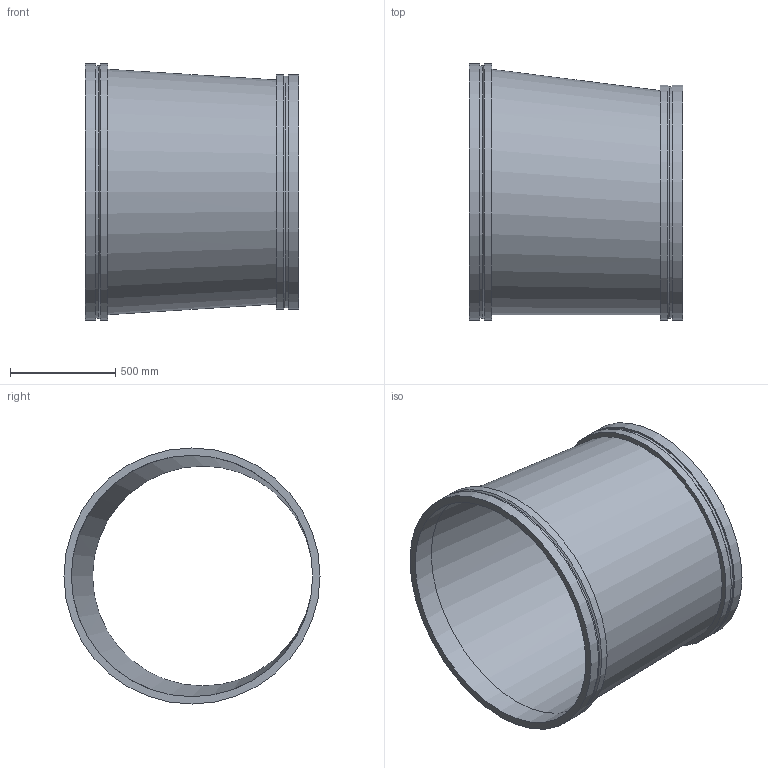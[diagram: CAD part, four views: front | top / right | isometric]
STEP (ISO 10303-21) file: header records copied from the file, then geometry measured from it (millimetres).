
FILE_DESCRIPTION(/* description */ ('VIC REDUCER ECCENTRIC No W51-VR','CAx-IF Rec.Pracs.---Representation and Presentation of Product Manufacturing Information (PMI)---4.0---2014-10-13'),/* implementation_level */ '2;1');
FILE_NAME(/* name */ 'C:\Users\kkamble\AppData\Roaming\Autodesk\ApplicationPlugins\Back Up\Victaulic_Vic-Ring_Reducer Eccentric_No W51 VR (AGR)\Victaulic_Vic-Ring_Reducer Eccentric_No W51 VR (AGR)_46.0x42.0 (1150x1050).stp',/* time_stamp */ '2020-09-10T11:51:28+05:00',/* author */ ('CONSTRUCTION PIPING SERVICES'),/* organization */ ('Victaulic'),/* preprocessor_version */ 'ST-DEVELOPER v17.2',/* originating_system */ 'Autodesk Inventor 2019',/* authorisation */ '');
FILE_SCHEMA (('AP242_MANAGED_MODEL_BASED_3D_ENGINEERING_MIM_LF { 1 0 10303 442 1 1 4 }'));
Length unit declared in the file: inch
Products named in the file (1): W51 VR-46.0x42.0
Bounding box: 1016 x 1219.2 x 1219.2 mm (x, y, z)
Volume: 52450017.8 mm3; surface area: 7639233 mm2
Topology: 1 solids, 1 shells, 18 faces, 49 edges, 37 vertices
Faces by surface type: cylinder 8, plane 6, cone 2, bspline 2
Full cylindrical faces by diameter (mm): 1047.75 x1, 1101.725 x1, 1117.6 x2, 1149.35 x1, 1203.325 x1, 1219.2 x2
Entity records: 792 total; most frequent: CARTESIAN_POINT 158, DIRECTION 144, ORIENTED_EDGE 98, AXIS2_PLACEMENT_3D 67, EDGE_CURVE 49, CIRCLE 37, VERTEX_POINT 37, EDGE_LOOP 24
